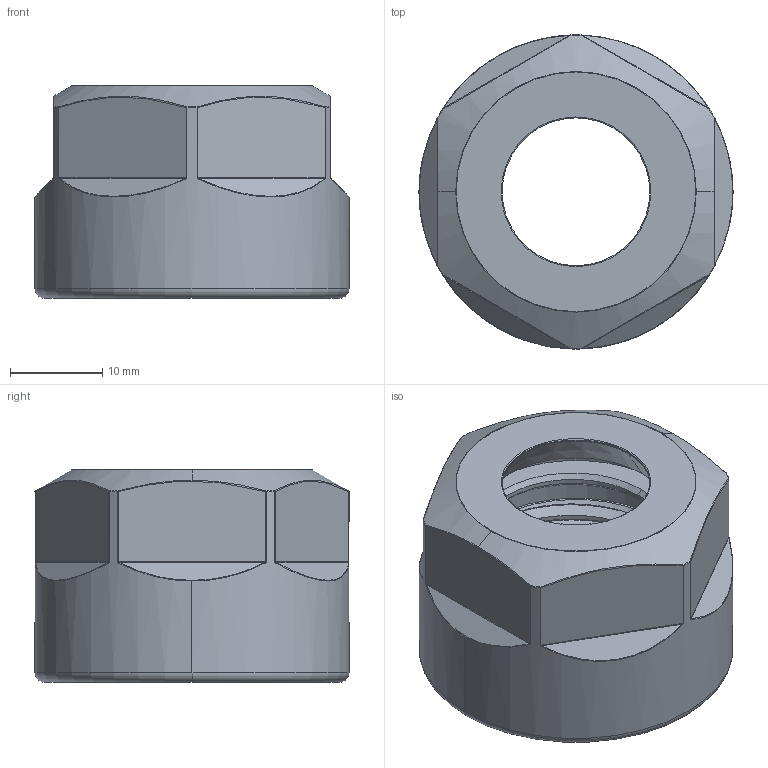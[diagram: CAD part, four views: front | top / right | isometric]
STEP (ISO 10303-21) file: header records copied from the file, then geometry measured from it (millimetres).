
FILE_DESCRIPTION (( 'STEP AP203' ), '1' );
FILE_NAME ('ER20-A.STEP', '2018-08-09T10:35:23', ( 'User' ), ( '' ), 'SwSTEP 2.0', 'SolidWorks 2017', '' );
FILE_SCHEMA (( 'CONFIG_CONTROL_DESIGN' ));
Length unit declared in the file: millimetre
Products named in the file (1): ER20-A
Bounding box: 34 x 34 x 23 mm (x, y, z)
Volume: 9292.5 mm3; surface area: 5959.8 mm2
Topology: 1 solids, 1 shells, 122 faces, 273 edges, 156 vertices
Faces by surface type: cylinder 38, bspline 27, plane 19, torus 14, cone 12, sphere 12
Entity records: 5484 total; most frequent: CARTESIAN_POINT 2934, ORIENTED_EDGE 546, DIRECTION 502, EDGE_CURVE 273, AXIS2_PLACEMENT_3D 218, VERTEX_POINT 156, EDGE_LOOP 127, ADVANCED_FACE 122
